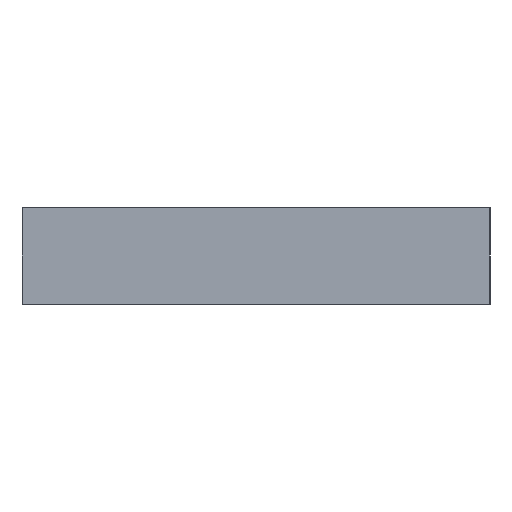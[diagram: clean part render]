
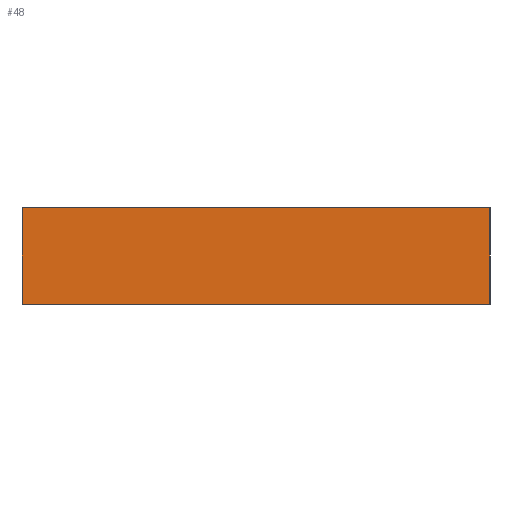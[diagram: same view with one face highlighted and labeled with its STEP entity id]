
A CAD part, left-side view. The second image highlights one B-rep face of the part: STEP entity #48.
In plain terms, the highlighted planar face has unit normal (-1, 0, 0).
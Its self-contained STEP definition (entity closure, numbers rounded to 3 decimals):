
#48 = ADVANCED_FACE( '', ( #104 ), #105, .F. );
#104 = FACE_OUTER_BOUND( '', #173, .T. );
#105 = PLANE( '', #174 );
#173 = EDGE_LOOP( '', ( #248, #249, #250, #251 ) );
#174 = AXIS2_PLACEMENT_3D( '', #252, #253, #254 );
#248 = ORIENTED_EDGE( '', *, *, #375, .T. );
#249 = ORIENTED_EDGE( '', *, *, #376, .F. );
#250 = ORIENTED_EDGE( '', *, *, #377, .F. );
#251 = ORIENTED_EDGE( '', *, *, #378, .T. );
#252 = CARTESIAN_POINT( '', ( -6., 0., 3.5 ) );
#253 = DIRECTION( '', ( 1., 0., 0. ) );
#254 = DIRECTION( '', ( 0., 0., -1. ) );
#375 = EDGE_CURVE( '', #434, #435, #436, .T. );
#376 = EDGE_CURVE( '', #437, #435, #438, .T. );
#377 = EDGE_CURVE( '', #439, #437, #440, .T. );
#378 = EDGE_CURVE( '', #439, #434, #441, .T. );
#434 = VERTEX_POINT( '', #516 );
#435 = VERTEX_POINT( '', #517 );
#436 = LINE( '', #518, #519 );
#437 = VERTEX_POINT( '', #520 );
#438 = LINE( '', #521, #522 );
#439 = VERTEX_POINT( '', #523 );
#440 = LINE( '', #524, #525 );
#441 = LINE( '', #526, #527 );
#516 = CARTESIAN_POINT( '', ( -6., 0., -3.5 ) );
#517 = CARTESIAN_POINT( '', ( -6., -34., -3.5 ) );
#518 = CARTESIAN_POINT( '', ( -6., 0., -3.5 ) );
#519 = VECTOR( '', #595, 1000. );
#520 = CARTESIAN_POINT( '', ( -6., -34., 3.5 ) );
#521 = CARTESIAN_POINT( '', ( -6., -34., 3.5 ) );
#522 = VECTOR( '', #596, 1000. );
#523 = CARTESIAN_POINT( '', ( -6., 0., 3.5 ) );
#524 = CARTESIAN_POINT( '', ( -6., 0., 3.5 ) );
#525 = VECTOR( '', #597, 1000. );
#526 = CARTESIAN_POINT( '', ( -6., 0., 3.5 ) );
#527 = VECTOR( '', #598, 1000. );
#595 = DIRECTION( '', ( 0., -1., 0. ) );
#596 = DIRECTION( '', ( 0., 0., -1. ) );
#597 = DIRECTION( '', ( 0., -1., 0. ) );
#598 = DIRECTION( '', ( 0., 0., -1. ) );
